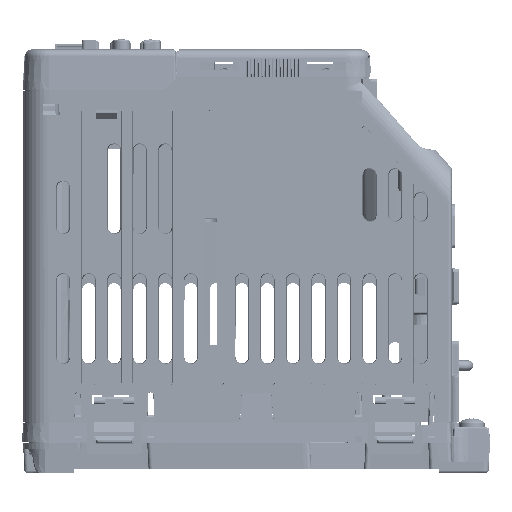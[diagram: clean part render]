
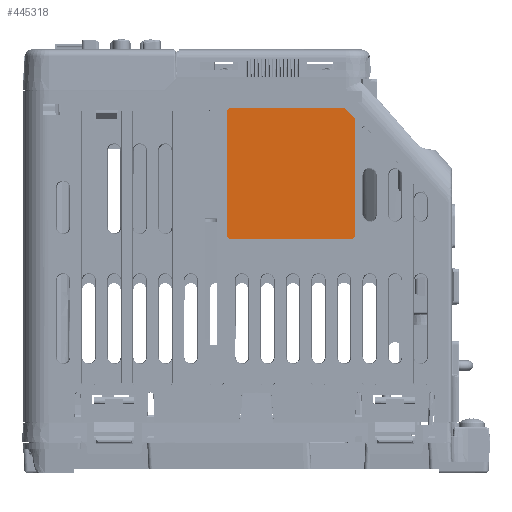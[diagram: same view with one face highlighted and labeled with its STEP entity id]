
A CAD part, left-side view. The second image highlights one B-rep face of the part: STEP entity #445318.
In plain terms, the highlighted planar face has unit normal (-1, 0, 0) as drawn and (0, 0, 1) by its records, which use the part's own axes.
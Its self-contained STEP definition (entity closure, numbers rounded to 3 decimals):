
#445161=CARTESIAN_POINT('',(1.,-34.,0.));
#445162=DIRECTION('',(0.,0.,-1.));
#445163=DIRECTION('',(0.,-1.,0.));
#445164=AXIS2_PLACEMENT_3D('',#445161,#445162,#445163);
#445166=CARTESIAN_POINT('',(1.,-1.,0.));
#445167=DIRECTION('',(0.,0.,-1.));
#445168=DIRECTION('',(-1.,0.,0.));
#445169=AXIS2_PLACEMENT_3D('',#445166,#445167,#445168);
#445171=CARTESIAN_POINT('',(35.,-1.,0.));
#445172=DIRECTION('',(0.,0.,-1.));
#445173=DIRECTION('',(0.,1.,0.));
#445174=AXIS2_PLACEMENT_3D('',#445171,#445172,#445173);
#445176=DIRECTION('',(-0.707,-0.707,0.));
#445177=VECTOR('',#445176,4.243);
#445178=CARTESIAN_POINT('',(36.,-32.,0.));
#445179=LINE('',#445178,#445177);
#445180=DIRECTION('',(1.,0.,0.));
#445181=VECTOR('',#445180,32.);
#445182=CARTESIAN_POINT('',(1.,-35.,0.));
#445183=LINE('',#445182,#445181);
#445192=DIRECTION('',(0.,1.,0.));
#445193=VECTOR('',#445192,31.);
#445194=CARTESIAN_POINT('',(36.,-32.,0.));
#445195=LINE('',#445194,#445193);
#445204=DIRECTION('',(-1.,0.,0.));
#445205=VECTOR('',#445204,34.);
#445206=CARTESIAN_POINT('',(35.,0.,0.));
#445207=LINE('',#445206,#445205);
#445216=DIRECTION('',(0.,-1.,0.));
#445217=VECTOR('',#445216,33.);
#445218=CARTESIAN_POINT('',(0.,-1.,0.));
#445219=LINE('',#445218,#445217);
#445263=CARTESIAN_POINT('',(1.,-35.,0.));
#445264=CARTESIAN_POINT('',(33.,-35.,0.));
#445265=VERTEX_POINT('',#445263);
#445266=VERTEX_POINT('',#445264);
#445267=CARTESIAN_POINT('',(0.,-34.,0.));
#445268=VERTEX_POINT('',#445267);
#445269=CARTESIAN_POINT('',(0.,-1.,0.));
#445270=VERTEX_POINT('',#445269);
#445271=CARTESIAN_POINT('',(1.,0.,0.));
#445272=VERTEX_POINT('',#445271);
#445273=CARTESIAN_POINT('',(35.,0.,0.));
#445274=VERTEX_POINT('',#445273);
#445275=CARTESIAN_POINT('',(36.,-1.,0.));
#445276=VERTEX_POINT('',#445275);
#445277=CARTESIAN_POINT('',(36.,-32.,0.));
#445278=VERTEX_POINT('',#445277);
#445295=CARTESIAN_POINT('',(0.,0.,0.));
#445296=DIRECTION('',(0.,0.,1.));
#445297=DIRECTION('',(1.,0.,0.));
#445298=AXIS2_PLACEMENT_3D('',#445295,#445296,#445297);
#445299=PLANE('',#445298);
#445301=ORIENTED_EDGE('',*,*,#445300,.F.);
#445303=ORIENTED_EDGE('',*,*,#445302,.T.);
#445305=ORIENTED_EDGE('',*,*,#445304,.F.);
#445307=ORIENTED_EDGE('',*,*,#445306,.T.);
#445309=ORIENTED_EDGE('',*,*,#445308,.F.);
#445311=ORIENTED_EDGE('',*,*,#445310,.T.);
#445313=ORIENTED_EDGE('',*,*,#445312,.F.);
#445315=ORIENTED_EDGE('',*,*,#445314,.T.);
#445316=EDGE_LOOP('',(#445301,#445303,#445305,#445307,#445309,#445311,#445313,
#445315));
#445317=FACE_OUTER_BOUND('',#445316,.F.);
#445318=ADVANCED_FACE('',(#445317),#445299,.T.);
#445165=CIRCLE('',#445164,1.);
#445170=CIRCLE('',#445169,1.);
#445175=CIRCLE('',#445174,1.);
#445300=EDGE_CURVE('',#445265,#445266,#445183,.T.);
#445302=EDGE_CURVE('',#445265,#445268,#445165,.T.);
#445304=EDGE_CURVE('',#445270,#445268,#445219,.T.);
#445306=EDGE_CURVE('',#445270,#445272,#445170,.T.);
#445308=EDGE_CURVE('',#445274,#445272,#445207,.T.);
#445310=EDGE_CURVE('',#445274,#445276,#445175,.T.);
#445312=EDGE_CURVE('',#445278,#445276,#445195,.T.);
#445314=EDGE_CURVE('',#445278,#445266,#445179,.T.);
